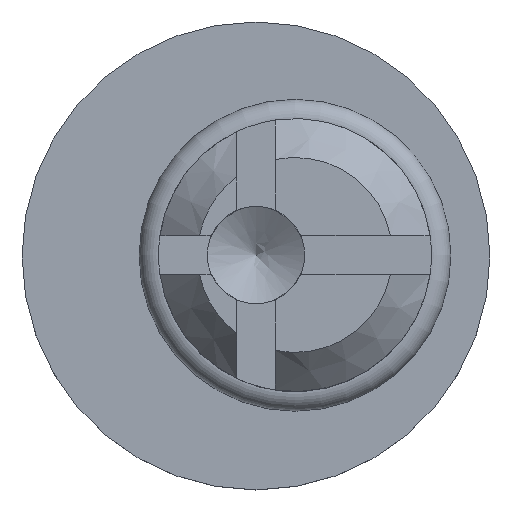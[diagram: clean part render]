
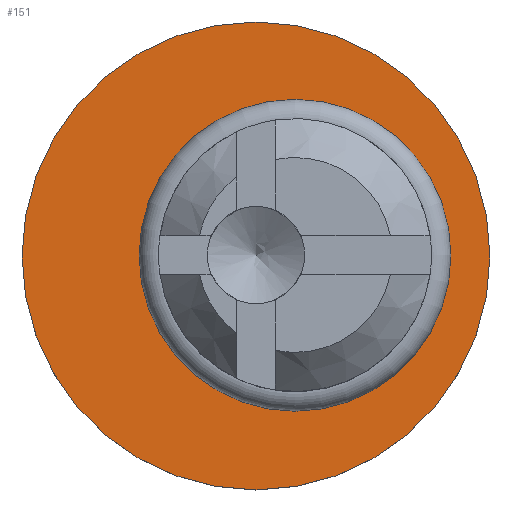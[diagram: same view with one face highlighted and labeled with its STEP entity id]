
A CAD part, top view. The second image highlights one B-rep face of the part: STEP entity #151.
In plain terms, the highlighted planar face has unit normal (0, 0, 1).
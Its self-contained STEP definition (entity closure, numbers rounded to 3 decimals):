
#124=CARTESIAN_POINT('',(0.0,0.0,0.0));
#125=DIRECTION('',(0.0,0.0,1.0));
#126=DIRECTION('',(1.0,0.0,0.0));
#127=AXIS2_PLACEMENT_3D('',#124,#125,#126);
#128=PLANE('',#127);
#129=CARTESIAN_POINT('',(-6.,0.,0.0));
#130=VERTEX_POINT('',#129);
#131=CARTESIAN_POINT('',(0.0,0.0,0.0));
#132=DIRECTION('',(0.0,0.0,1.0));
#133=DIRECTION('',(1.0,0.0,0.0));
#134=AXIS2_PLACEMENT_3D('',#131,#132,#133);
#135=CIRCLE('',#134,6.);
#136=EDGE_CURVE('',#130,#130,#135,.T.);
#137=ORIENTED_EDGE('',*,*,#136,.T.);
#138=EDGE_LOOP('',(#137));
#139=FACE_OUTER_BOUND('',#138,.T.);
#140=CARTESIAN_POINT('',(-2.5,0.,0.0));
#141=VERTEX_POINT('',#140);
#142=CARTESIAN_POINT('',(1.0,0.0,0.0));
#143=DIRECTION('',(0.0,0.0,-1.0));
#144=DIRECTION('',(-1.0,0.0,0.0));
#145=AXIS2_PLACEMENT_3D('',#142,#143,#144);
#146=CIRCLE('',#145,3.5);
#147=EDGE_CURVE('',#141,#141,#146,.T.);
#148=ORIENTED_EDGE('',*,*,#147,.T.);
#149=EDGE_LOOP('',(#148));
#150=FACE_BOUND('',#149,.T.);
#151=ADVANCED_FACE('',(#139,#150),#128,.T.);
